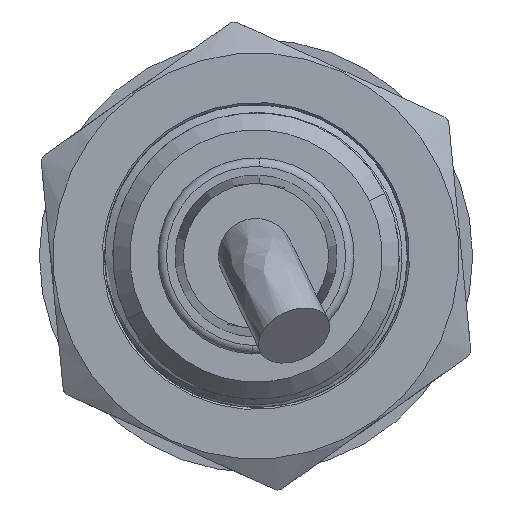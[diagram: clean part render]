
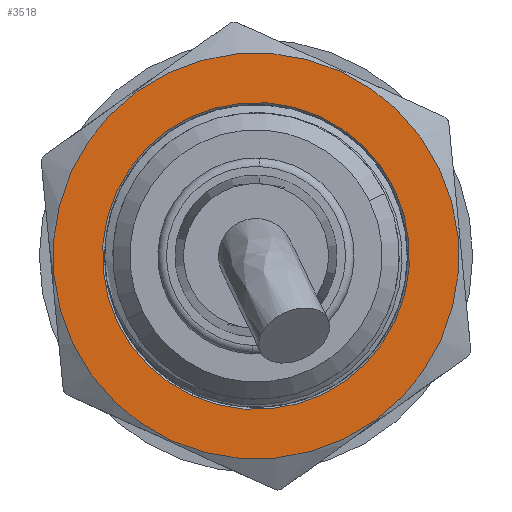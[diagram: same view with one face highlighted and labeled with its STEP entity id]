
A CAD part, front view. The second image highlights one B-rep face of the part: STEP entity #3518.
In plain terms, the highlighted planar face has unit normal (0, -1, 0).
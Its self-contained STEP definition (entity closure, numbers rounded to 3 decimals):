
#418 = CIRCLE ( 'NONE', #2787, 9. ) ;
#433 = DIRECTION ( 'NONE',  ( -0.414, 0., -0.91 ) ) ;
#583 = CARTESIAN_POINT ( 'NONE',  ( -7.174, 12.343, 61.773 ) ) ;
#638 = ORIENTED_EDGE ( 'NONE', *, *, #5311, .T. ) ;
#764 = CARTESIAN_POINT ( 'NONE',  ( -2.243, 12.343, 72.604 ) ) ;
#1192 = CARTESIAN_POINT ( 'NONE',  ( -7.174, 12.343, 61.773 ) ) ;
#1208 = EDGE_LOOP ( 'NONE', ( #5035, #4158 ) ) ;
#1259 = CARTESIAN_POINT ( 'NONE',  ( -3.445, 12.343, 69.964 ) ) ;
#1402 = VERTEX_POINT ( 'NONE', #4417 ) ;
#1811 = AXIS2_PLACEMENT_3D ( 'NONE', #1192, #6046, #1812 ) ;
#1812 = DIRECTION ( 'NONE',  ( -0.414, 0., -0.91 ) ) ;
#1880 = DIRECTION ( 'NONE',  ( 0., -1., 0. ) ) ;
#2018 = CARTESIAN_POINT ( 'NONE',  ( -12.105, 12.343, 50.943 ) ) ;
#2495 = DIRECTION ( 'NONE',  ( 0.414, 0., 0.91 ) ) ;
#2582 = CIRCLE ( 'NONE', #3907, 11.9 ) ;
#2787 = AXIS2_PLACEMENT_3D ( 'NONE', #5639, #5137, #4502 ) ;
#3073 = EDGE_CURVE ( 'NONE', #6370, #3230, #2582, .T. ) ;
#3139 = FACE_OUTER_BOUND ( 'NONE', #1208, .T. ) ;
#3230 = VERTEX_POINT ( 'NONE', #764 ) ;
#3304 = CARTESIAN_POINT ( 'NONE',  ( -7.174, 12.343, 61.773 ) ) ;
#3517 = AXIS2_PLACEMENT_3D ( 'NONE', #583, #1880, #2495 ) ;
#3518 = ADVANCED_FACE ( 'NONE', ( #5226, #3139 ), #7075, .F. ) ;
#3847 = EDGE_CURVE ( 'NONE', #6997, #1402, #4281, .T. ) ;
#3907 = AXIS2_PLACEMENT_3D ( 'NONE', #3304, #7571, #4734 ) ;
#4047 = CARTESIAN_POINT ( 'NONE',  ( -7.174, 12.343, 61.773 ) ) ;
#4158 = ORIENTED_EDGE ( 'NONE', *, *, #3073, .T. ) ;
#4281 = CIRCLE ( 'NONE', #1811, 9. ) ;
#4417 = CARTESIAN_POINT ( 'NONE',  ( -10.903, 12.343, 53.582 ) ) ;
#4502 = DIRECTION ( 'NONE',  ( -0.414, 0., -0.91 ) ) ;
#4693 = CIRCLE ( 'NONE', #3517, 11.9 ) ;
#4734 = DIRECTION ( 'NONE',  ( 0.414, 0., 0.91 ) ) ;
#5035 = ORIENTED_EDGE ( 'NONE', *, *, #6992, .T. ) ;
#5137 = DIRECTION ( 'NONE',  ( 0., 1., 0. ) ) ;
#5226 = FACE_BOUND ( 'NONE', #7004, .T. ) ;
#5271 = AXIS2_PLACEMENT_3D ( 'NONE', #4047, #5752, #433 ) ;
#5311 = EDGE_CURVE ( 'NONE', #1402, #6997, #418, .T. ) ;
#5639 = CARTESIAN_POINT ( 'NONE',  ( -7.174, 12.343, 61.773 ) ) ;
#5752 = DIRECTION ( 'NONE',  ( 0., 1., 0. ) ) ;
#6046 = DIRECTION ( 'NONE',  ( 0., 1., 0. ) ) ;
#6370 = VERTEX_POINT ( 'NONE', #2018 ) ;
#6992 = EDGE_CURVE ( 'NONE', #3230, #6370, #4693, .T. ) ;
#6997 = VERTEX_POINT ( 'NONE', #1259 ) ;
#7004 = EDGE_LOOP ( 'NONE', ( #7426, #638 ) ) ;
#7075 = PLANE ( 'NONE',  #5271 ) ;
#7426 = ORIENTED_EDGE ( 'NONE', *, *, #3847, .T. ) ;
#7571 = DIRECTION ( 'NONE',  ( 0., -1., 0. ) ) ;
